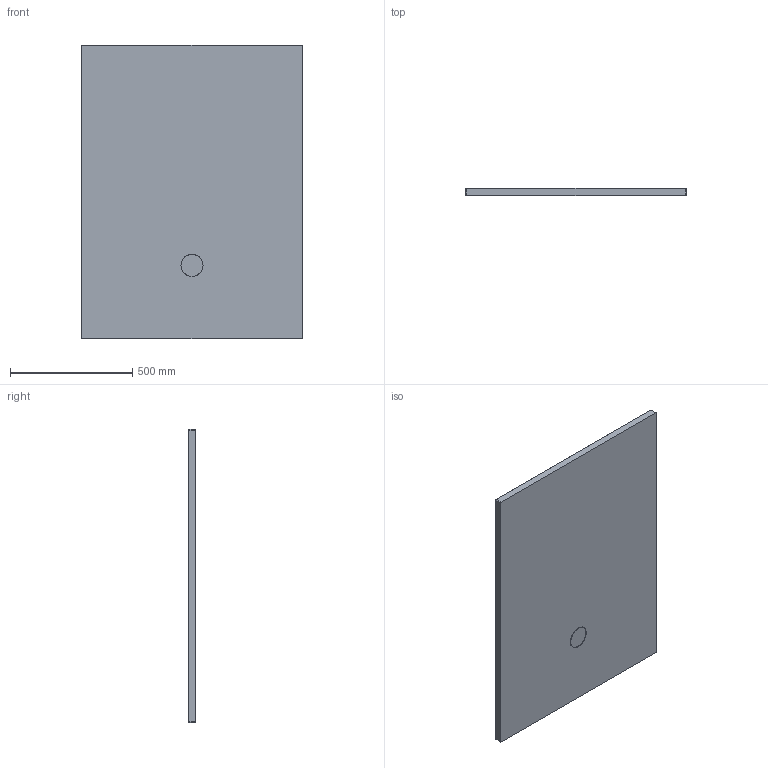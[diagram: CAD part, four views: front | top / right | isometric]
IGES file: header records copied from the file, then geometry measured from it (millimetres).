
Start section: SolidWorks IGES file using analytic representation for surfaces
Global section: file name: D:\Users\M.Szymanski\Desktop\Brodziki\Nias\B_M_NIAS_120x90x1,5.IGS; native system: SolidWorks 2011; preprocessor: SolidWorks 2011; author: M.Szymanski; date: 180222.141951; units: millimetre
Bounding box: 900 x 30 x 1200 mm (x, y, z)
Surface area: 2305326.7 mm2 (no closed solid volume)
Topology: 0 solids, 0 shells, 45 faces, 658 edges, 657 vertices
Faces by surface type: bspline 25, revolution 20
